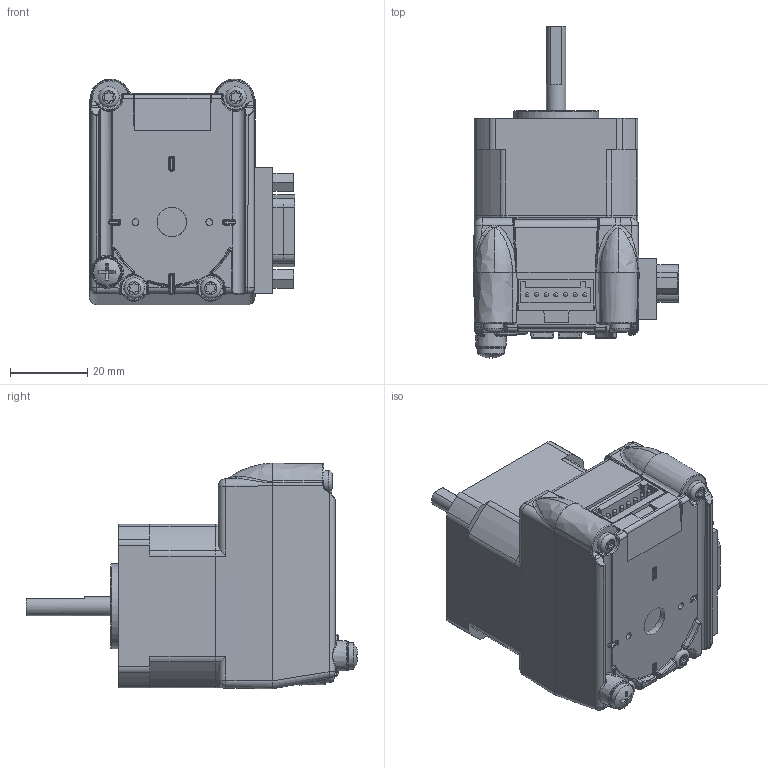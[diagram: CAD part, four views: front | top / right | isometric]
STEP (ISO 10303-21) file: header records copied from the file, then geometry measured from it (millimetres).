
FILE_DESCRIPTION(('MD17 Plus Motion Control, CANopen With DB9 Connector, Single.stp'),'1');
FILE_NAME('T:/Kubotek Models For Design Assemblies/3D Step File Models Posted on-line/MDrive17 Plus/CANopen with DB-9 connector/MD17 Plus Motion Control, CANopen With DB9 Connector, Single.stp', '2016-06-17T18:46:40',('P. Bordua, 06/17/16'), ('Schneider Electric Motion USA'), 'KCM Version 1.1.1406.0', 'Kubotek KeyCreator', 'Kubotek KeyCreator');
FILE_SCHEMA(('AUTOMOTIVE_DESIGN'));
Length unit declared in the file: inch
Bounding box: 53.01 x 85.7 x 58.35 mm (x, y, z)
Volume: 114957.1 mm3; surface area: 17391.3 mm2
Topology: 1 solids, 1 shells, 678 faces, 1700 edges, 1051 vertices
Faces by surface type: cylinder 241, plane 188, bspline 160, torus 44, sphere 26, cone 19
Full cylindrical faces by diameter (mm): 1.041 x7, 1.092 x9, 2.261 x2, 2.5 x4, 4.999 x1, 5.385 x4, 6.858 x1, 7.315 x1, 7.62 x1, 9.525 x1, 21.996 x1
Entity records: 46363 total; most frequent: CARTESIAN_POINT 29249, ORIENTED_EDGE 3362, DIRECTION 3094, EDGE_CURVE 1681, AXIS2_PLACEMENT_3D 1266, VERTEX_POINT 1051, EDGE_LOOP 724, FACE_OUTER_BOUND 678
